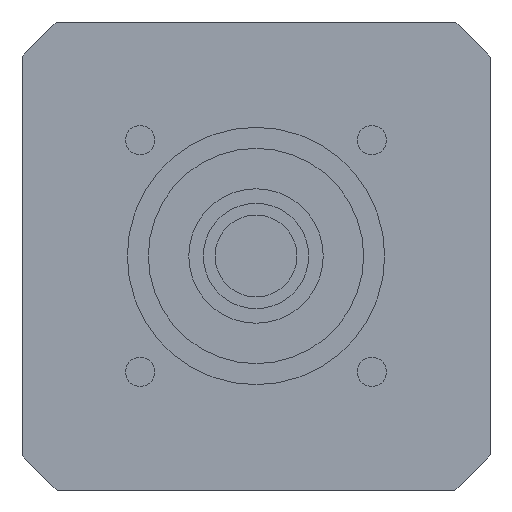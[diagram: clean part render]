
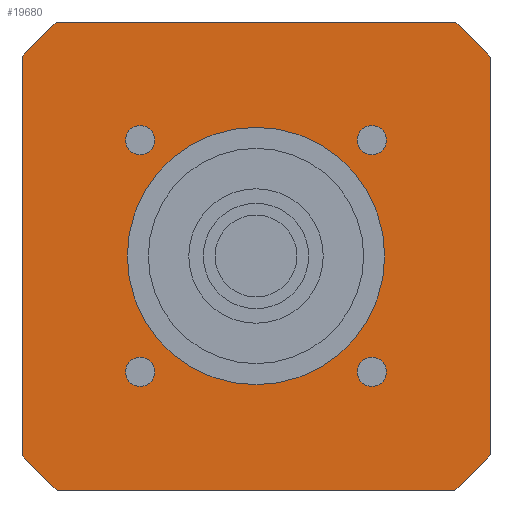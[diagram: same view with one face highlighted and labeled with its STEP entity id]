
A CAD part, left-side view. The second image highlights one B-rep face of the part: STEP entity #19680.
In plain terms, the highlighted planar face has unit normal (-1, 0, 0) as drawn and (0, 0, -1) by its records, which use the part's own axes.
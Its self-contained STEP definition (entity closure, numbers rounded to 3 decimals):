
#13700=CARTESIAN_POINT('',(40.,-34.004,-44.));
#13710=VERTEX_POINT('',#13700);
#13740=CARTESIAN_POINT('',(0.,0.,
-44.));
#13750=DIRECTION('',(0.,0.,1.));
#13760=DIRECTION('',(1.,0.,0.));
#13770=AXIS2_PLACEMENT_3D('',#13740,#13750,#13760);
#13780=CIRCLE('',#13770,52.5);
#13790=CARTESIAN_POINT('',(34.004,-40.,-44.));
#13800=VERTEX_POINT('',#13790);
#13810=EDGE_CURVE('',#13800,#13710,#13780,.T.);
#17950=CARTESIAN_POINT('',(40.,34.004,-44.));
#17960=VERTEX_POINT('',#17950);
#18040=CARTESIAN_POINT('',(34.004,40.,-44.));
#18050=VERTEX_POINT('',#18040);
#18080=CARTESIAN_POINT('',(0.,0.,
-44.));
#18090=DIRECTION('',(0.,0.,1.));
#18100=DIRECTION('',(1.,0.,0.));
#18110=AXIS2_PLACEMENT_3D('',#18080,#18090,#18100);
#18120=CIRCLE('',#18110,52.5);
#18130=EDGE_CURVE('',#17960,#18050,#18120,.T.);
#18180=CARTESIAN_POINT('',(40.,40.,-44.));
#18190=DIRECTION('',(0.,0.,1.));
#18200=DIRECTION('',(0.,1.,0.));
#18210=AXIS2_PLACEMENT_3D('',#18180,#18190,#18200);
#18220=PLANE('',#18210);
#18230=CARTESIAN_POINT('',(0.,0.,
-44.));
#18240=DIRECTION('',(0.,0.,1.));
#18250=DIRECTION('',(1.,0.,0.));
#18260=AXIS2_PLACEMENT_3D('',#18230,#18240,#18250);
#18270=CIRCLE('',#18260,52.5);
#18280=CARTESIAN_POINT('',(-34.004,40.,-44.));
#18290=VERTEX_POINT('',#18280);
#18300=CARTESIAN_POINT('',(-40.,34.004,-44.));
#18310=VERTEX_POINT('',#18300);
#18320=EDGE_CURVE('',#18290,#18310,#18270,.T.);
#18330=ORIENTED_EDGE('',*,*,#18320,.F.);
#18340=CARTESIAN_POINT('',(-40.,40.,-44.));
#18350=DIRECTION('',(0.,-1.,0.));
#18360=VECTOR('',#18350,1000.);
#18370=LINE('',#18340,#18360);
#18380=CARTESIAN_POINT('',(-40.,-34.004,-44.));
#18390=VERTEX_POINT('',#18380);
#18400=EDGE_CURVE('',#18310,#18390,#18370,.T.);
#18410=ORIENTED_EDGE('',*,*,#18400,.F.);
#18420=CARTESIAN_POINT('',(0.,0.,
-44.));
#18430=DIRECTION('',(0.,0.,1.));
#18440=DIRECTION('',(1.,0.,0.));
#18450=AXIS2_PLACEMENT_3D('',#18420,#18430,#18440);
#18460=CIRCLE('',#18450,52.5);
#18470=CARTESIAN_POINT('',(-34.004,-40.,-44.));
#18480=VERTEX_POINT('',#18470);
#18490=EDGE_CURVE('',#18390,#18480,#18460,.T.);
#18500=ORIENTED_EDGE('',*,*,#18490,.F.);
#18510=CARTESIAN_POINT('',(-40.,-40.,-44.));
#18520=DIRECTION('',(1.,0.,0.));
#18530=VECTOR('',#18520,1000.);
#18540=LINE('',#18510,#18530);
#18550=EDGE_CURVE('',#18480,#13800,#18540,.T.);
#18560=ORIENTED_EDGE('',*,*,#18550,.F.);
#18570=ORIENTED_EDGE('',*,*,#13810,.F.);
#18580=CARTESIAN_POINT('',(40.,-40.,-44.));
#18590=DIRECTION('',(0.,1.,0.));
#18600=VECTOR('',#18590,1000.);
#18610=LINE('',#18580,#18600);
#18620=EDGE_CURVE('',#13710,#17960,#18610,.T.);
#18630=ORIENTED_EDGE('',*,*,#18620,.F.);
#18640=ORIENTED_EDGE('',*,*,#18130,.F.);
#18650=CARTESIAN_POINT('',(40.,40.,-44.));
#18660=DIRECTION('',(-1.,0.,0.));
#18670=VECTOR('',#18660,1000.);
#18680=LINE('',#18650,#18670);
#18690=EDGE_CURVE('',#18050,#18290,#18680,.T.);
#18700=ORIENTED_EDGE('',*,*,#18690,.F.);
#18710=EDGE_LOOP('',(#18700,#18640,#18630,#18570,#18560,#18500,#18410,
#18330));
#18720=FACE_OUTER_BOUND('',#18710,.T.);
#18730=CARTESIAN_POINT('',(-19.799,19.799,-44.));
#18740=DIRECTION('',(0.,0.,-1.));
#18750=DIRECTION('',(1.,0.,0.));
#18760=AXIS2_PLACEMENT_3D('',#18730,#18740,#18750);
#18770=CIRCLE('',#18760,2.5);
#18780=CARTESIAN_POINT('',(-17.299,19.799,-44.));
#18790=VERTEX_POINT('',#18780);
#18800=CARTESIAN_POINT('',(-19.799,17.299,-44.));
#18810=VERTEX_POINT('',#18800);
#18820=EDGE_CURVE('',#18790,#18810,#18770,.T.);
#18830=ORIENTED_EDGE('',*,*,#18820,.F.);
#18840=CARTESIAN_POINT('',(-19.799,22.299,-44.));
#18850=VERTEX_POINT('',#18840);
#18860=EDGE_CURVE('',#18810,#18850,#18770,.T.);
#18870=ORIENTED_EDGE('',*,*,#18860,.F.);
#18880=EDGE_CURVE('',#18850,#18790,#18770,.T.);
#18890=ORIENTED_EDGE('',*,*,#18880,.F.);
#18900=EDGE_LOOP('',(#18890,#18870,#18830));
#18910=FACE_BOUND('',#18900,.T.);
#18920=CARTESIAN_POINT('',(19.799,19.799,-44.));
#18930=DIRECTION('',(0.,0.,-1.));
#18940=DIRECTION('',(1.,0.,0.));
#18950=AXIS2_PLACEMENT_3D('',#18920,#18930,#18940);
#18960=CIRCLE('',#18950,2.5);
#18970=CARTESIAN_POINT('',(22.299,19.799,-44.));
#18980=VERTEX_POINT('',#18970);
#18990=CARTESIAN_POINT('',(19.799,17.299,-44.));
#19000=VERTEX_POINT('',#18990);
#19010=EDGE_CURVE('',#18980,#19000,#18960,.T.);
#19020=ORIENTED_EDGE('',*,*,#19010,.F.);
#19030=CARTESIAN_POINT('',(19.799,22.299,-44.));
#19040=VERTEX_POINT('',#19030);
#19050=EDGE_CURVE('',#19000,#19040,#18960,.T.);
#19060=ORIENTED_EDGE('',*,*,#19050,.F.);
#19070=EDGE_CURVE('',#19040,#18980,#18960,.T.);
#19080=ORIENTED_EDGE('',*,*,#19070,.F.);
#19090=EDGE_LOOP('',(#19080,#19060,#19020));
#19100=FACE_BOUND('',#19090,.T.);
#19110=CARTESIAN_POINT('',(19.799,-19.799,-44.));
#19120=DIRECTION('',(0.,0.,-1.));
#19130=DIRECTION('',(1.,0.,0.));
#19140=AXIS2_PLACEMENT_3D('',#19110,#19120,#19130);
#19150=CIRCLE('',#19140,2.5);
#19160=CARTESIAN_POINT('',(22.299,-19.799,-44.));
#19170=VERTEX_POINT('',#19160);
#19180=CARTESIAN_POINT('',(19.799,-22.299,-44.));
#19190=VERTEX_POINT('',#19180);
#19200=EDGE_CURVE('',#19170,#19190,#19150,.T.);
#19210=ORIENTED_EDGE('',*,*,#19200,.F.);
#19220=CARTESIAN_POINT('',(19.799,-17.299,-44.));
#19230=VERTEX_POINT('',#19220);
#19240=EDGE_CURVE('',#19190,#19230,#19150,.T.);
#19250=ORIENTED_EDGE('',*,*,#19240,.F.);
#19260=EDGE_CURVE('',#19230,#19170,#19150,.T.);
#19270=ORIENTED_EDGE('',*,*,#19260,.F.);
#19280=EDGE_LOOP('',(#19270,#19250,#19210));
#19290=FACE_BOUND('',#19280,.T.);
#19300=CARTESIAN_POINT('',(-19.799,-19.799,-44.));
#19310=DIRECTION('',(0.,0.,-1.));
#19320=DIRECTION('',(1.,0.,0.));
#19330=AXIS2_PLACEMENT_3D('',#19300,#19310,#19320);
#19340=CIRCLE('',#19330,2.5);
#19350=CARTESIAN_POINT('',(-17.299,-19.799,-44.));
#19360=VERTEX_POINT('',#19350);
#19370=CARTESIAN_POINT('',(-19.799,-22.299,-44.));
#19380=VERTEX_POINT('',#19370);
#19390=EDGE_CURVE('',#19360,#19380,#19340,.T.);
#19400=ORIENTED_EDGE('',*,*,#19390,.F.);
#19410=CARTESIAN_POINT('',(-19.799,-17.299,-44.));
#19420=VERTEX_POINT('',#19410);
#19430=EDGE_CURVE('',#19380,#19420,#19340,.T.);
#19440=ORIENTED_EDGE('',*,*,#19430,.F.);
#19450=EDGE_CURVE('',#19420,#19360,#19340,.T.);
#19460=ORIENTED_EDGE('',*,*,#19450,.F.);
#19470=EDGE_LOOP('',(#19460,#19440,#19400));
#19480=FACE_BOUND('',#19470,.T.);
#19490=CARTESIAN_POINT('',(0.,0.,
-44.));
#19500=DIRECTION('',(0.,0.,1.));
#19510=DIRECTION('',(1.,0.,0.));
#19520=AXIS2_PLACEMENT_3D('',#19490,#19500,#19510);
#19530=CIRCLE('',#19520,22.);
#19540=CARTESIAN_POINT('',(0.,22.,-44.));
#19550=VERTEX_POINT('',#19540);
#19560=CARTESIAN_POINT('',(0.,-22.,-44.));
#19570=VERTEX_POINT('',#19560);
#19580=EDGE_CURVE('',#19550,#19570,#19530,.T.);
#19590=ORIENTED_EDGE('',*,*,#19580,.T.);
#19600=CARTESIAN_POINT('',(22.,0.,-44.));
#19610=VERTEX_POINT('',#19600);
#19620=EDGE_CURVE('',#19610,#19550,#19530,.T.);
#19630=ORIENTED_EDGE('',*,*,#19620,.T.);
#19640=EDGE_CURVE('',#19570,#19610,#19530,.T.);
#19650=ORIENTED_EDGE('',*,*,#19640,.T.);
#19660=EDGE_LOOP('',(#19650,#19630,#19590));
#19670=FACE_BOUND('',#19660,.T.);
#19680=ADVANCED_FACE('',(#18720,#18910,#19100,#19290,#19480,#19670),
#18220,.F.);
